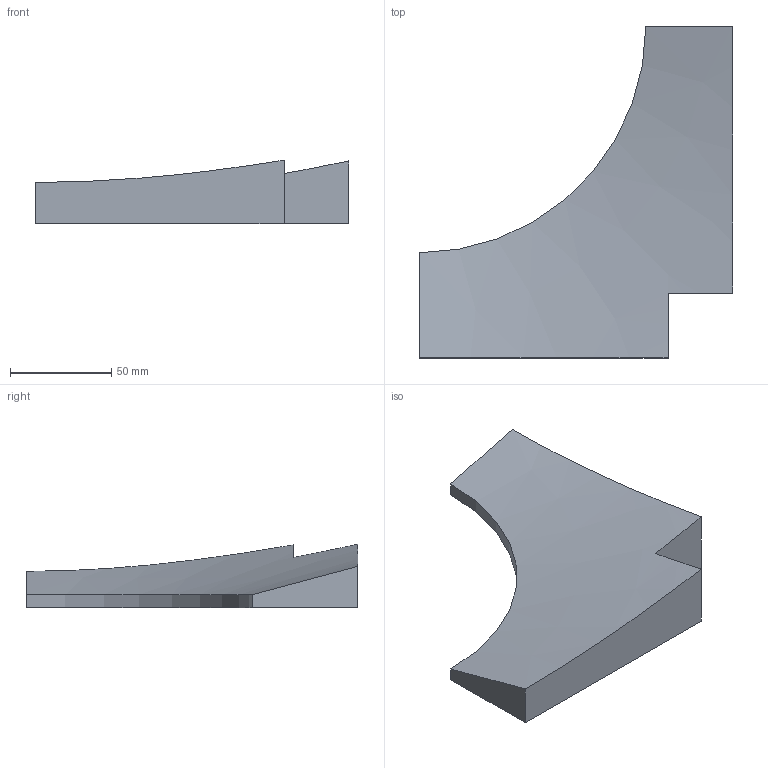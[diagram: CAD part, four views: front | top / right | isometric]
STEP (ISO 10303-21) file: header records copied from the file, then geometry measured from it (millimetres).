
FILE_DESCRIPTION(('Open CASCADE Model'),'2;1');
FILE_NAME('Open CASCADE Shape Model','2026-10-06T19:56:10',('Author'),( 'Open CASCADE'),'Open CASCADE STEP processor 7.9','Open CASCADE 7.9' ,'Unknown');
FILE_SCHEMA(('AUTOMOTIVE_DESIGN { 1 0 10303 214 1 1 1 1 }'));
Length unit declared in the file: millimetre
Products named in the file (1): Open CASCADE STEP translator 7.9 34
Bounding box: 155 x 164 x 31.42 mm (x, y, z)
Volume: 236718.6 mm3; surface area: 39731.2 mm2
Topology: 1 solids, 1 shells, 9 faces, 21 edges, 14 vertices
Faces by surface type: plane 7, cone 1, cylinder 1
Entity records: 547 total; most frequent: CARTESIAN_POINT 159, DIRECTION 57, ORIENTED_EDGE 42, PCURVE 42, DEFINITIONAL_REPRESENTATION 42, B_SPLINE_CURVE_WITH_KNOTS 27, LINE 25, VECTOR 25
